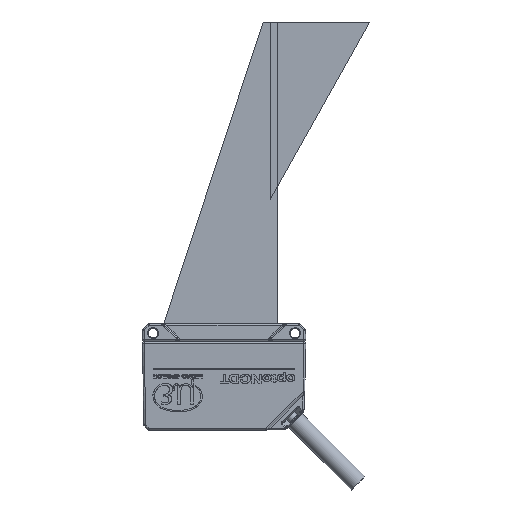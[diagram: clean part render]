
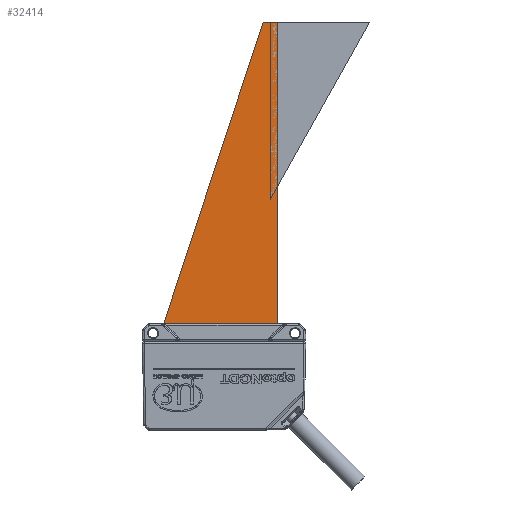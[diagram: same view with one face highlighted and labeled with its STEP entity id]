
A CAD part, front view. The second image highlights one B-rep face of the part: STEP entity #32414.
In plain terms, the highlighted planar face has unit normal (0, -1, 0).
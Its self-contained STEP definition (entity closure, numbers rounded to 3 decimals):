
#944 = CARTESIAN_POINT ( 'NONE',  ( -16.991, -1.5, 5. ) ) ;
#2985 = VECTOR ( 'NONE', #4366, 1000. ) ;
#4366 = DIRECTION ( 'NONE',  ( 1., 0., 0. ) ) ;
#6061 = ORIENTED_EDGE ( 'NONE', *, *, #17761, .F. ) ;
#8395 = CARTESIAN_POINT ( 'NONE',  ( 14.991, -1.5, 5. ) ) ;
#8684 = CARTESIAN_POINT ( 'NONE',  ( 11., -1.5, 90. ) ) ;
#9477 = ORIENTED_EDGE ( 'NONE', *, *, #60071, .F. ) ;
#12218 = VECTOR ( 'NONE', #40646, 1000. ) ;
#14540 = VERTEX_POINT ( 'NONE', #16268 ) ;
#14695 = CARTESIAN_POINT ( 'NONE',  ( -16.991, -1.5, 5. ) ) ;
#15597 = DIRECTION ( 'NONE',  ( 0.313, 0., 0.95 ) ) ;
#15686 = LINE ( 'NONE', #944, #31019 ) ;
#16052 = AXIS2_PLACEMENT_3D ( 'NONE', #46176, #66487, #35592 ) ;
#16268 = CARTESIAN_POINT ( 'NONE',  ( 14.991, -1.5, 90. ) ) ;
#17761 = EDGE_CURVE ( 'NONE', #20828, #14540, #36072, .T. ) ;
#18234 = EDGE_LOOP ( 'NONE', ( #59007, #6061, #9477, #43404 ) ) ;
#18793 = FACE_OUTER_BOUND ( 'NONE', #18234, .T. ) ;
#20248 = LINE ( 'NONE', #30946, #12218 ) ;
#20828 = VERTEX_POINT ( 'NONE', #8684 ) ;
#30376 = PLANE ( 'NONE',  #16052 ) ;
#30946 = CARTESIAN_POINT ( 'NONE',  ( 14.991, -1.5, 5. ) ) ;
#31019 = VECTOR ( 'NONE', #15597, 1000. ) ;
#31276 = CARTESIAN_POINT ( 'NONE',  ( 14.991, -1.5, 5. ) ) ;
#32414 = ADVANCED_FACE ( 'NONE', ( #18793 ), #30376, .T. ) ;
#35324 = LINE ( 'NONE', #31276, #36165 ) ;
#35592 = DIRECTION ( 'NONE',  ( 0., 0., -1. ) ) ;
#36072 = LINE ( 'NONE', #60375, #2985 ) ;
#36165 = VECTOR ( 'NONE', #37195, 1000. ) ;
#37195 = DIRECTION ( 'NONE',  ( -1., 0., 0. ) ) ;
#40646 = DIRECTION ( 'NONE',  ( 0., 0., -1. ) ) ;
#41594 = VERTEX_POINT ( 'NONE', #14695 ) ;
#43404 = ORIENTED_EDGE ( 'NONE', *, *, #53364, .F. ) ;
#46176 = CARTESIAN_POINT ( 'NONE',  ( 0., -1.5, 0. ) ) ;
#49797 = EDGE_CURVE ( 'NONE', #14540, #54149, #20248, .T. ) ;
#53364 = EDGE_CURVE ( 'NONE', #54149, #41594, #35324, .T. ) ;
#54149 = VERTEX_POINT ( 'NONE', #8395 ) ;
#59007 = ORIENTED_EDGE ( 'NONE', *, *, #49797, .F. ) ;
#60071 = EDGE_CURVE ( 'NONE', #41594, #20828, #15686, .T. ) ;
#60375 = CARTESIAN_POINT ( 'NONE',  ( 14.991, -1.5, 90. ) ) ;
#66487 = DIRECTION ( 'NONE',  ( 0., -1., 0. ) ) ;
